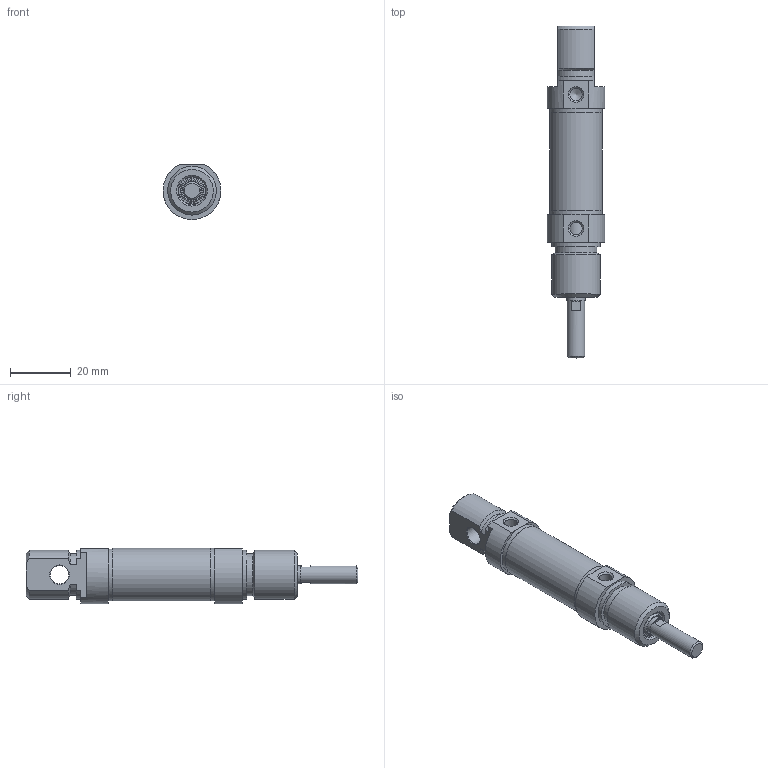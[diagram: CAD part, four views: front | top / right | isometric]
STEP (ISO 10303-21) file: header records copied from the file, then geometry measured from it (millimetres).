
FILE_DESCRIPTION((''),'2;1');
FILE_NAME('T:\Archivio Inventor\- 00 NUOVI STP PER SITO CON STELO CHE SI MUOVE\SERIE O\ODM\ODM016.---.GS.M\ODM016.000.GS.M.stp','2014-02-25T16:43:08',('carlo.corazza'),(''),'Autodesk Inventor 2012','Autodesk Inventor 2012','');
FILE_SCHEMA(('AUTOMOTIVE_DESIGN { 1 0 10303 214 1 1 1 1 }'));
Length unit declared in the file: millimetre
Products named in the file (5): ODM016..GS.M; CORPO-000; STELO-000; TA; TP
Assembly tree (4 placements, depth 2):
  ODM016..GS.M
    CORPO-000
    STELO-000
    TA
    TP
Bounding box: 18.95 x 109 x 18.14 mm (x, y, z)
Volume: 13910.6 mm3; surface area: 9711.4 mm2
Topology: 4 solids, 4 shells, 98 faces, 204 edges, 129 vertices
Faces by surface type: plane 40, cylinder 28, cone 23, torus 7
Full cylindrical faces by diameter (mm): 4 x1, 4.134 x2, 5.9 x1, 6 x2, 6.5 x1, 7.1 x1, 9 x1, 9.1 x1, 11.1 x1, 11.2 x1, 13.7 x1, 16 x3, 17.2 x2, 17.27 x1
Entity records: 2545 total; most frequent: DIRECTION 444, CARTESIAN_POINT 422, ORIENTED_EDGE 296, AXIS2_PLACEMENT_3D 198, EDGE_LOOP 162, EDGE_CURVE 148, VERTEX_POINT 118, FACE_OUTER_BOUND 98
